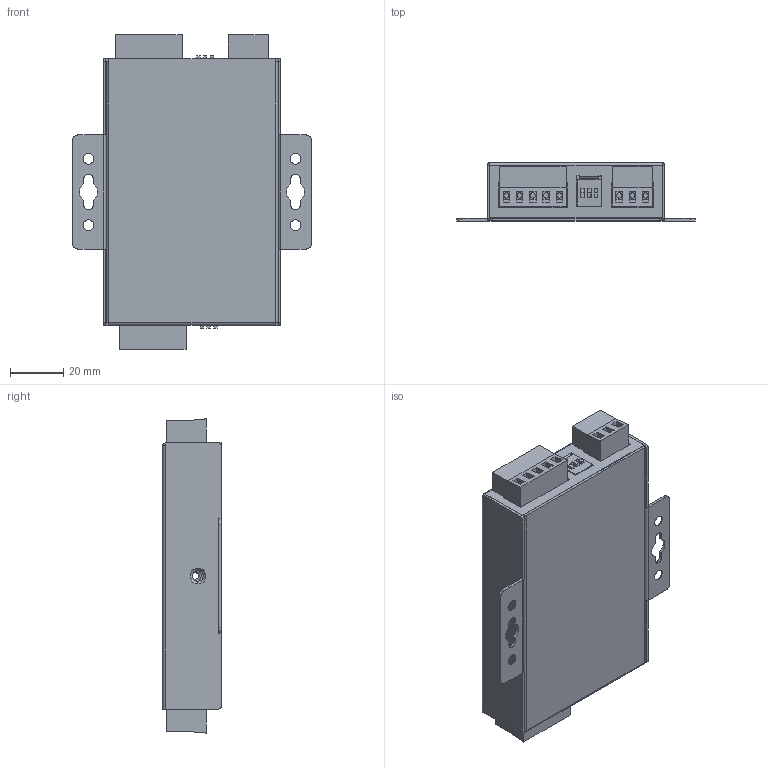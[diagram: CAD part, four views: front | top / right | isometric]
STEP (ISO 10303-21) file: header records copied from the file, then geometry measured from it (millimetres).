
FILE_DESCRIPTION((''),'2;1');
FILE_NAME('TCC-120I','2012-03-22T',('Vincent_Huang'),(''),'PRO/ENGINEER BY PARAMETRIC TECHNOLOGY CORPORATION, 2004320','PRO/ENGINEER BY PARAMETRIC TECHNOLOGY CORPORATION, 2004320','');
FILE_SCHEMA(('CONFIG_CONTROL_DESIGN'));
Length unit declared in the file: millimetre
Products named in the file (1): TCC-120I
Bounding box: 90 x 22 x 118.5 mm (x, y, z)
Volume: 46158.9 mm3; surface area: 68201.4 mm2
Topology: 8 solids, 31 shells, 1050 faces, 2649 edges, 1724 vertices
Faces by surface type: plane 723, cylinder 279, torus 30, cone 12, sphere 6
Entity records: 31630 total; most frequent: CARTESIAN_POINT 5697, DIRECTION 5376, ORIENTED_EDGE 5286, EDGE_CURVE 2643, VECTOR 1906, LINE 1906, AXIS2_PLACEMENT_3D 1735, VERTEX_POINT 1724
